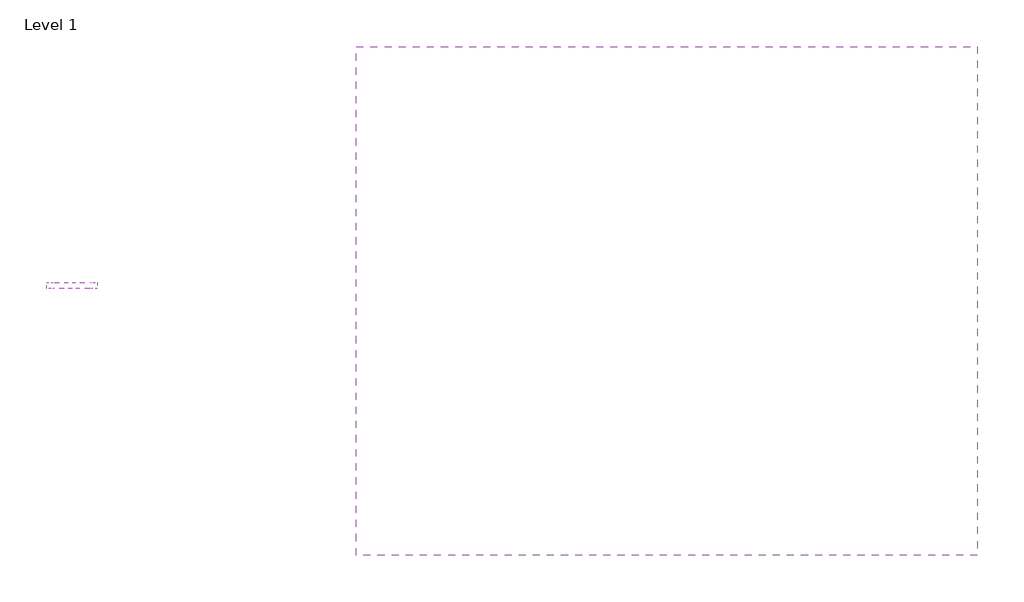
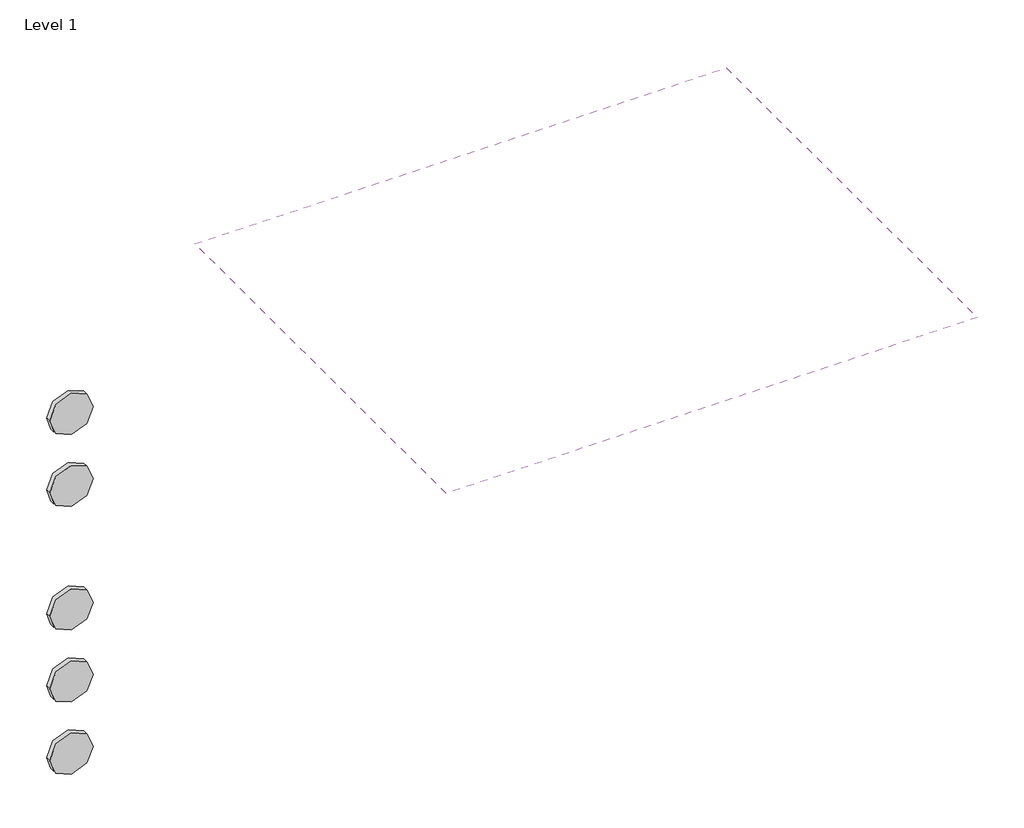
# One storey, incomplete: 5 proxies, 1 covering.
"""IFC4 building model written with IfcOpenShell, lengths in millimetres."""

from ifc_helpers import new_model, si_unit, frame, origin, place, context, project, spatial, polyline, outline, extrude, transform, mapped, element, save
from components import materialmodel_materialmodel_73a78689

model = new_model("IFC4")

# Units and contexts
model_context = context("Model", 3, world=origin())
ifc_project = project(units=[si_unit("LENGTHUNIT", "METRE", prefix="MILLI")], contexts=[model_context])

# Site, building, storey
site = spatial("IfcSite", under=ifc_project)
building = spatial("IfcBuilding", under=site)
storey = spatial("IfcBuildingStorey", under=building, Name="Level 1", Elevation=0.0)

# Proxies
placement = place(None, origin())
materialmodel_materialmodel_shape = materialmodel_materialmodel_73a78689(model_context)
element("IfcBuildingElementProxy", 1, Name="MaterialModel : MaterialModel", ObjectType="MaterialModel : MaterialModel", at=placement, inside=storey, context=model_context, shape_type="MappedRepresentation", body=[
    mapped(materialmodel_materialmodel_shape, transform((-15039.2264414, 6097.5863071, 1520.2296761), x_axis=(1.0, 0.0, 0.0), y_axis=(0.0, 1.0, 0.0), z_axis=(0.0, 0.0, 1.0))),
])
element("IfcBuildingElementProxy", 2, Name="MaterialModel : MaterialModel", ObjectType="MaterialModel : MaterialModel", at=placement, inside=storey, context=model_context, shape_type="MappedRepresentation", body=[
    mapped(materialmodel_materialmodel_shape, transform((-15039.2264414, 6097.5863071, 1995.4161759), x_axis=(1.0, 0.0, 0.0), y_axis=(0.0, 1.0, 0.0), z_axis=(0.0, 0.0, 1.0))),
])
element("IfcBuildingElementProxy", 3, Name="MaterialModel : MaterialModel", ObjectType="MaterialModel : MaterialModel", at=placement, inside=storey, context=model_context, shape_type="MappedRepresentation", body=[
    mapped(materialmodel_materialmodel_shape, transform((-15039.2264414, 6097.5863071, 1820.4161759), x_axis=(1.0, 0.0, 0.0), y_axis=(0.0, 1.0, 0.0), z_axis=(0.0, 0.0, 1.0))),
])
element("IfcBuildingElementProxy", 4, Name="MaterialModel : MaterialModel", ObjectType="MaterialModel : MaterialModel", at=placement, inside=storey, context=model_context, shape_type="MappedRepresentation", body=[
    mapped(materialmodel_materialmodel_shape, transform((-15039.2264414, 6097.5863071, 1345.2296761), x_axis=(1.0, 0.0, 0.0), y_axis=(0.0, 1.0, 0.0), z_axis=(0.0, 0.0, 1.0))),
])
element("IfcBuildingElementProxy", 5, Name="MaterialModel : MaterialModel", ObjectType="MaterialModel : MaterialModel", at=placement, inside=storey, context=model_context, shape_type="MappedRepresentation", body=[
    mapped(materialmodel_materialmodel_shape, transform((-15039.2264414, 6097.5863071, 1170.2296761), x_axis=(1.0, 0.0, 0.0), y_axis=(0.0, 1.0, 0.0), z_axis=(0.0, 0.0, 1.0))),
])

# Covering
element("IfcCovering", 6, ObjectType="600 x 1200mm Grid", at=placement, inside=storey, context=model_context, shape_type="SweptSolid", body=[
    extrude(outline(polyline([(-13260.883584, 6561.1087432), (-13260.883584, 5561.1087432), (-14480.883584, 5561.1087432), (-14480.883584, 6561.1087432), (-13260.883584, 6561.1087432)])), frame((0.0, 0.0, 2000.0), z_axis=(0.0, 0.0, 1.0), x_axis=(1.0, 0.0, 0.0)), (0.0, 0.0, 1.0), 52.0),
])

save(model, "model.ifc")
